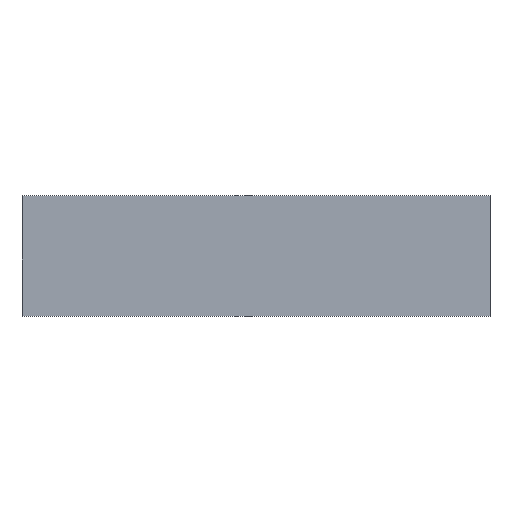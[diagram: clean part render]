
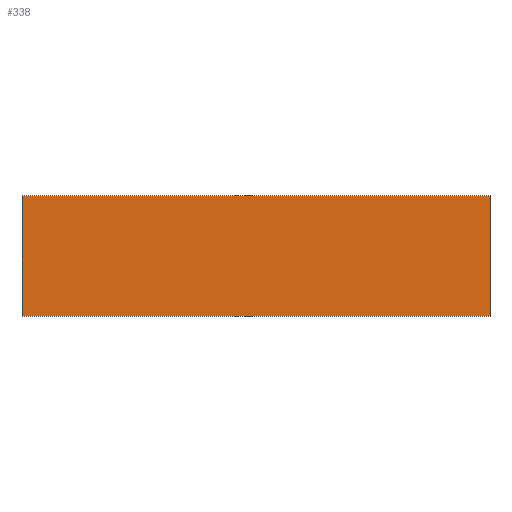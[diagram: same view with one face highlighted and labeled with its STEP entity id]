
A CAD part, top view. The second image highlights one B-rep face of the part: STEP entity #338.
In plain terms, the highlighted planar face has unit normal (0, 0, 1).
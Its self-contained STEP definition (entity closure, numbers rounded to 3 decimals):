
#24 = VERTEX_POINT('',#25);
#25 = CARTESIAN_POINT('',(13.,160.3,14.6));
#32 = PLANE('',#33);
#33 = AXIS2_PLACEMENT_3D('',#34,#35,#36);
#34 = CARTESIAN_POINT('',(13.,160.3,13.));
#35 = DIRECTION('',(1.,0.,0.));
#36 = DIRECTION('',(0.,0.,1.));
#44 = PLANE('',#45);
#45 = AXIS2_PLACEMENT_3D('',#46,#47,#48);
#46 = CARTESIAN_POINT('',(13.,160.3,13.));
#47 = DIRECTION('',(0.,1.,0.));
#48 = DIRECTION('',(0.,0.,1.));
#85 = VERTEX_POINT('',#86);
#86 = CARTESIAN_POINT('',(13.,178.3,14.6));
#100 = PLANE('',#101);
#101 = AXIS2_PLACEMENT_3D('',#102,#103,#104);
#102 = CARTESIAN_POINT('',(13.,178.3,13.));
#103 = DIRECTION('',(0.,1.,0.));
#104 = DIRECTION('',(0.,0.,1.));
#112 = EDGE_CURVE('',#24,#85,#113,.T.);
#113 = SURFACE_CURVE('',#114,(#118,#125),.PCURVE_S1.);
#114 = LINE('',#115,#116);
#115 = CARTESIAN_POINT('',(13.,160.3,14.6));
#116 = VECTOR('',#117,1.);
#117 = DIRECTION('',(0.,1.,0.));
#118 = PCURVE('',#32,#119);
#119 = DEFINITIONAL_REPRESENTATION('',(#120),#124);
#120 = LINE('',#121,#122);
#121 = CARTESIAN_POINT('',(1.6,0.));
#122 = VECTOR('',#123,1.);
#123 = DIRECTION('',(0.,-1.));
#124 = ( GEOMETRIC_REPRESENTATION_CONTEXT(2) 
PARAMETRIC_REPRESENTATION_CONTEXT() REPRESENTATION_CONTEXT('2D SPACE',''
  ) );
#125 = PCURVE('',#126,#131);
#126 = PLANE('',#127);
#127 = AXIS2_PLACEMENT_3D('',#128,#129,#130);
#128 = CARTESIAN_POINT('',(13.,160.3,14.6));
#129 = DIRECTION('',(0.,0.,1.));
#130 = DIRECTION('',(1.,0.,0.));
#131 = DEFINITIONAL_REPRESENTATION('',(#132),#136);
#132 = LINE('',#133,#134);
#133 = CARTESIAN_POINT('',(0.,0.));
#134 = VECTOR('',#135,1.);
#135 = DIRECTION('',(0.,1.));
#136 = ( GEOMETRIC_REPRESENTATION_CONTEXT(2) 
PARAMETRIC_REPRESENTATION_CONTEXT() REPRESENTATION_CONTEXT('2D SPACE',''
  ) );
#144 = VERTEX_POINT('',#145);
#145 = CARTESIAN_POINT('',(83.,160.3,14.6));
#152 = PLANE('',#153);
#153 = AXIS2_PLACEMENT_3D('',#154,#155,#156);
#154 = CARTESIAN_POINT('',(83.,160.3,13.));
#155 = DIRECTION('',(1.,0.,0.));
#156 = DIRECTION('',(0.,0.,1.));
#195 = VERTEX_POINT('',#196);
#196 = CARTESIAN_POINT('',(83.,178.3,14.6));
#217 = EDGE_CURVE('',#144,#195,#218,.T.);
#218 = SURFACE_CURVE('',#219,(#223,#230),.PCURVE_S1.);
#219 = LINE('',#220,#221);
#220 = CARTESIAN_POINT('',(83.,160.3,14.6));
#221 = VECTOR('',#222,1.);
#222 = DIRECTION('',(0.,1.,0.));
#223 = PCURVE('',#152,#224);
#224 = DEFINITIONAL_REPRESENTATION('',(#225),#229);
#225 = LINE('',#226,#227);
#226 = CARTESIAN_POINT('',(1.6,0.));
#227 = VECTOR('',#228,1.);
#228 = DIRECTION('',(0.,-1.));
#229 = ( GEOMETRIC_REPRESENTATION_CONTEXT(2) 
PARAMETRIC_REPRESENTATION_CONTEXT() REPRESENTATION_CONTEXT('2D SPACE',''
  ) );
#230 = PCURVE('',#126,#231);
#231 = DEFINITIONAL_REPRESENTATION('',(#232),#236);
#232 = LINE('',#233,#234);
#233 = CARTESIAN_POINT('',(70.,0.));
#234 = VECTOR('',#235,1.);
#235 = DIRECTION('',(0.,1.));
#236 = ( GEOMETRIC_REPRESENTATION_CONTEXT(2) 
PARAMETRIC_REPRESENTATION_CONTEXT() REPRESENTATION_CONTEXT('2D SPACE',''
  ) );
#263 = EDGE_CURVE('',#24,#144,#264,.T.);
#264 = SURFACE_CURVE('',#265,(#269,#276),.PCURVE_S1.);
#265 = LINE('',#266,#267);
#266 = CARTESIAN_POINT('',(13.,160.3,14.6));
#267 = VECTOR('',#268,1.);
#268 = DIRECTION('',(1.,0.,0.));
#269 = PCURVE('',#44,#270);
#270 = DEFINITIONAL_REPRESENTATION('',(#271),#275);
#271 = LINE('',#272,#273);
#272 = CARTESIAN_POINT('',(1.6,0.));
#273 = VECTOR('',#274,1.);
#274 = DIRECTION('',(0.,1.));
#275 = ( GEOMETRIC_REPRESENTATION_CONTEXT(2) 
PARAMETRIC_REPRESENTATION_CONTEXT() REPRESENTATION_CONTEXT('2D SPACE',''
  ) );
#276 = PCURVE('',#126,#277);
#277 = DEFINITIONAL_REPRESENTATION('',(#278),#282);
#278 = LINE('',#279,#280);
#279 = CARTESIAN_POINT('',(0.,0.));
#280 = VECTOR('',#281,1.);
#281 = DIRECTION('',(1.,0.));
#282 = ( GEOMETRIC_REPRESENTATION_CONTEXT(2) 
PARAMETRIC_REPRESENTATION_CONTEXT() REPRESENTATION_CONTEXT('2D SPACE',''
  ) );
#310 = EDGE_CURVE('',#85,#195,#311,.T.);
#311 = SURFACE_CURVE('',#312,(#316,#323),.PCURVE_S1.);
#312 = LINE('',#313,#314);
#313 = CARTESIAN_POINT('',(13.,178.3,14.6));
#314 = VECTOR('',#315,1.);
#315 = DIRECTION('',(1.,0.,0.));
#316 = PCURVE('',#100,#317);
#317 = DEFINITIONAL_REPRESENTATION('',(#318),#322);
#318 = LINE('',#319,#320);
#319 = CARTESIAN_POINT('',(1.6,0.));
#320 = VECTOR('',#321,1.);
#321 = DIRECTION('',(0.,1.));
#322 = ( GEOMETRIC_REPRESENTATION_CONTEXT(2) 
PARAMETRIC_REPRESENTATION_CONTEXT() REPRESENTATION_CONTEXT('2D SPACE',''
  ) );
#323 = PCURVE('',#126,#324);
#324 = DEFINITIONAL_REPRESENTATION('',(#325),#329);
#325 = LINE('',#326,#327);
#326 = CARTESIAN_POINT('',(0.,18.));
#327 = VECTOR('',#328,1.);
#328 = DIRECTION('',(1.,0.));
#329 = ( GEOMETRIC_REPRESENTATION_CONTEXT(2) 
PARAMETRIC_REPRESENTATION_CONTEXT() REPRESENTATION_CONTEXT('2D SPACE',''
  ) );
#338 = ADVANCED_FACE('',(#339),#126,.T.);
#339 = FACE_BOUND('',#340,.T.);
#340 = EDGE_LOOP('',(#341,#342,#343,#344));
#341 = ORIENTED_EDGE('',*,*,#112,.F.);
#342 = ORIENTED_EDGE('',*,*,#263,.T.);
#343 = ORIENTED_EDGE('',*,*,#217,.T.);
#344 = ORIENTED_EDGE('',*,*,#310,.F.);
